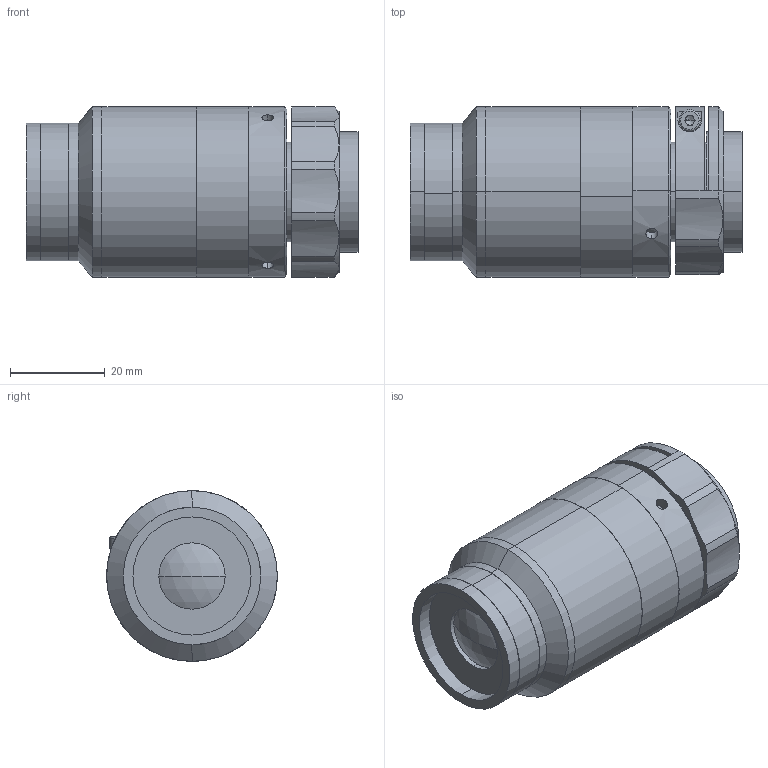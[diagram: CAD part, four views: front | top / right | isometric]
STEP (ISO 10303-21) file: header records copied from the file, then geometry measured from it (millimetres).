
FILE_DESCRIPTION (( 'STEP AP203' ), '1' );
FILE_NAME ('XF-MH065X91.STEP', '2020-08-24T07:06:36', ( 'canrill-02' ), ( '' ), 'SwSTEP 2.0', 'SolidWorks 2014', '' );
FILE_SCHEMA (( 'CONFIG_CONTROL_DESIGN' ));
Length unit declared in the file: millimetre
Products named in the file (1): XF-MH065X91
Bounding box: 70.02 x 36 x 36 mm (x, y, z)
Surface area: 14082.6 mm2 (no closed solid volume)
Topology: 0 solids, 12 shells, 104 faces, 274 edges, 186 vertices
Faces by surface type: cylinder 49, plane 36, cone 15, sphere 2, torus 2
Entity records: 3601 total; most frequent: CARTESIAN_POINT 884, DIRECTION 607, ORIENTED_EDGE 466, EDGE_CURVE 272, AXIS2_PLACEMENT_3D 253, VERTEX_POINT 186, CIRCLE 148, EDGE_LOOP 130
